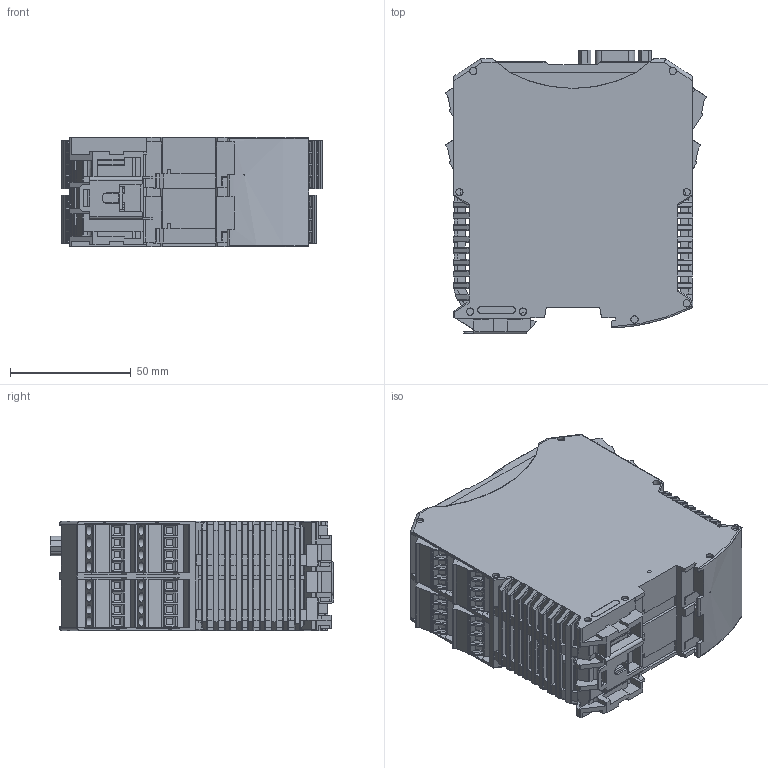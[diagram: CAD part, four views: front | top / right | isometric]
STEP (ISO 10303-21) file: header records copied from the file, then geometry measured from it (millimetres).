
FILE_DESCRIPTION (( 'STEP AP214' ), '1' );
FILE_NAME ('SD7_Enhanced2.STEP', '2020-05-27T09:10:01', ( '' ), ( '' ), 'SwSTEP 2.0', 'SolidWorks 2018', '' );
FILE_SCHEMA (( 'AUTOMOTIVE_DESIGN' ));
Length unit declared in the file: millimetre
Products named in the file (1): SD7_Enhanced2
Bounding box: 107.68 x 117.3 x 45.2 mm (x, y, z)
Volume: 439578.7 mm3; surface area: 67440.7 mm2
Topology: 2 solids, 16 shells, 2774 faces, 7647 edges, 4862 vertices
Faces by surface type: plane 2118, cylinder 632, cone 18, sphere 4, bspline 2
Entity records: 119564 total; most frequent: CARTESIAN_POINT 20105, ORIENTED_EDGE 15270, DIRECTION 13644, EDGE_CURVE 7635, VECTOR 6140, LINE 6140, VERTEX_POINT 4862, AXIS2_PLACEMENT_3D 3752
